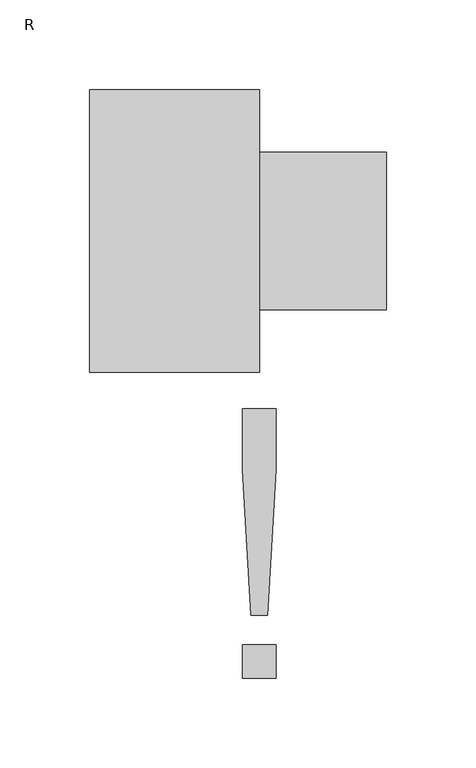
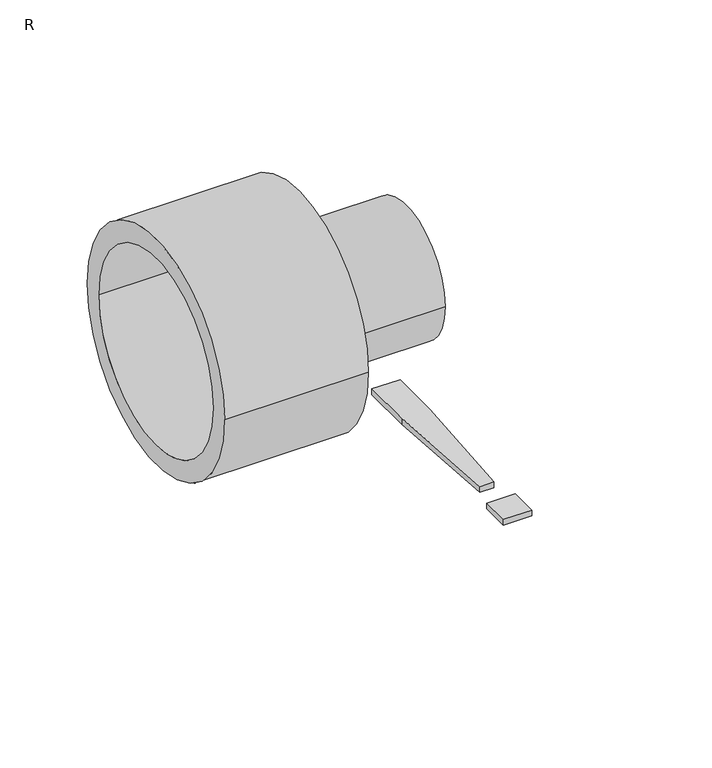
"""IFC4 building model written with IfcOpenShell, lengths in millimetres: pipe fitting geometry, FUSAPEX reducer for T-Piece : R."""

from ifc_helpers import new_model, si_unit, frame, origin, origin_with_axes, place, context, project, spatial, polyline, circle_curve, outline, extrude, source, transform, mapped, element, save
from ifc_brep_helpers import plane_surface, cylinder_surface, revolved_surface, advanced_brep


def r_8749512e(model_context):
    return source(origin(), model_context, "Body", "SolidModel", [
        extrude(outline(polyline([(-4.7088895, -214.6833285), (-9.4177791, -133.3446193), (-9.4177791, -99.3155348), (9.4177791, -99.3155348), (9.4177791, -133.3446193), (4.7088895, -214.6833285), (-4.7088895, -214.6833285)])), origin_with_axes(), (0.0, 0.0, 1.0), 4.0),
        extrude(outline(polyline([(-9.4177791, -250.0), (-9.4177791, -231.1644418), (9.4177791, -231.1644418), (9.4177791, -250.0), (-9.4177791, -250.0)])), origin_with_axes(), (0.0, 0.0, 1.0), 4.0),
        advanced_brep(
        [(-95.0, 65.4, 0.0), (-95.0, -65.4, 0.0), (-14.6, -65.4, 0.0), (-14.6, 65.4, 0.0), (0.0, 79.0, 0.0), (0.0, -79.0, 0.0), (-95.0, -79.0, 0.0), (-95.0, 79.0, 0.0), (71.0, 44.0, 0.0), (71.0, -44.0, 0.0), (0.0, -44.0, 0.0), (0.0, 44.0, 0.0), (-14.6, 36.8, 0.0), (-14.6, -36.8, 0.0), (71.0, -36.8, 0.0), (71.0, 36.8, 0.0)],
        [
            (0, 1, circle_curve(frame((-95.0, 0.0, 0.0), z_axis=(-1.0, 0.0, 0.0), x_axis=(0.0, -1.0, 0.0)), 65.4)),
            (1, 2),
            (2, 3, circle_curve(frame((-14.6, 0.0, 0.0), z_axis=(1.0, 0.0, 0.0), x_axis=(0.0, -1.0, 0.0)), 65.4)),
            (3, 0),
            (4, 5, circle_curve(frame((0.0, 0.0, 0.0), z_axis=(-1.0, 0.0, 0.0), x_axis=(0.0, -1.0, 0.0)), 79.0)),
            (5, 6),
            (6, 7, circle_curve(frame((-95.0, 0.0, 0.0), z_axis=(1.0, 0.0, 0.0), x_axis=(0.0, -1.0, 0.0)), 79.0)),
            (7, 4),
            (8, 9, circle_curve(frame((71.0, 0.0, 0.0), z_axis=(-1.0, 0.0, 0.0), x_axis=(0.0, -1.0, 0.0)), 44.0)),
            (9, 10),
            (10, 11, circle_curve(frame((0.0, 0.0, 0.0), z_axis=(1.0, 0.0, 0.0), x_axis=(0.0, -1.0, 0.0)), 44.0)),
            (11, 8),
            (12, 13, circle_curve(frame((-14.6, 0.0, 0.0), z_axis=(-1.0, 0.0, 0.0), x_axis=(0.0, -1.0, 0.0)), 36.8)),
            (13, 14),
            (14, 15, circle_curve(frame((71.0, 0.0, 0.0), z_axis=(1.0, 0.0, 0.0), x_axis=(0.0, -1.0, 0.0)), 36.8)),
            (15, 12),
            (1, 0, circle_curve(frame((-95.0, 0.0, 0.0), z_axis=(-1.0, 0.0, 0.0), x_axis=(0.0, 1.0, 0.0)), 65.4)),
            (3, 2, circle_curve(frame((-14.6, 0.0, 0.0), z_axis=(1.0, 0.0, 0.0), x_axis=(0.0, 1.0, 0.0)), 65.4)),
            (6, 7, circle_curve(frame((-95.0, 0.0, 0.0), z_axis=(-1.0, 0.0, 0.0), x_axis=(0.0, 1.0, 0.0)), 79.0)),
            (5, 4, circle_curve(frame((0.0, 0.0, 0.0), z_axis=(-1.0, 0.0, 0.0), x_axis=(0.0, 1.0, 0.0)), 79.0)),
            (10, 11, circle_curve(frame((0.0, 0.0, 0.0), z_axis=(-1.0, 0.0, 0.0), x_axis=(0.0, 1.0, 0.0)), 44.0)),
            (9, 8, circle_curve(frame((71.0, 0.0, 0.0), z_axis=(-1.0, 0.0, 0.0), x_axis=(0.0, 1.0, 0.0)), 44.0)),
            (14, 15, circle_curve(frame((71.0, 0.0, 0.0), z_axis=(-1.0, 0.0, 0.0), x_axis=(0.0, 1.0, 0.0)), 36.8)),
            (13, 12, circle_curve(frame((-14.6, 0.0, 0.0), z_axis=(-1.0, 0.0, 0.0), x_axis=(0.0, 1.0, 0.0)), 36.8)),
        ],
        [
            revolved_surface(polyline([(-14.6, -65.4, 0.0), (-95.0, -65.4, 0.0)]), (0.0, 0.0, 0.0), (1.0, 0.0, 0.0)),
            cylinder_surface(frame((0.0, 0.0, 0.0), z_axis=(1.0, 0.0, 0.0), x_axis=(0.0, -1.0, 0.0)), 79.0),
            cylinder_surface(frame((0.0, 0.0, 0.0), z_axis=(1.0, 0.0, 0.0), x_axis=(0.0, -1.0, 0.0)), 44.0),
            revolved_surface(polyline([(71.0, -36.8, 0.0), (-14.6, -36.8, 0.0)]), (0.0, 0.0, 0.0), (1.0, 0.0, 0.0)),
            revolved_surface(polyline([(-14.6, 65.4, 0.0), (-95.0, 65.4, 0.0)]), (0.0, 0.0, 0.0), (1.0, 0.0, 0.0)),
            plane_surface(frame((-95.0, 0.0, 0.0), z_axis=(-1.0, 0.0, 0.0), x_axis=(0.0, 1.0, 0.0))),
            cylinder_surface(frame((0.0, 0.0, 0.0), z_axis=(1.0, 0.0, 0.0), x_axis=(0.0, 1.0, 0.0)), 79.0),
            plane_surface(frame((0.0, 0.0, 0.0), z_axis=(1.0, 0.0, 0.0), x_axis=(0.0, 1.0, 0.0))),
            cylinder_surface(frame((0.0, 0.0, 0.0), z_axis=(1.0, 0.0, 0.0), x_axis=(0.0, 1.0, 0.0)), 44.0),
            plane_surface(frame((71.0, 0.0, 0.0), z_axis=(1.0, 0.0, 0.0), x_axis=(0.0, 1.0, 0.0))),
            revolved_surface(polyline([(71.0, 36.8, 0.0), (-14.6, 36.8, 0.0)]), (0.0, 0.0, 0.0), (1.0, 0.0, 0.0)),
            plane_surface(frame((-14.6, 0.0, 0.0), z_axis=(-1.0, 0.0, 0.0), x_axis=(0.0, 1.0, 0.0))),
        ],
        [
            (0, [[1, 2, 3, 4]]),
            (1, [[5, 6, 7, 8]]),
            (2, [[9, 10, 11, 12]]),
            (3, [[13, 14, 15, 16]]),
            (4, [[17, -4, 18, -2]]),
            (5, [[19, -7], [-17, -1]]),
            (6, [[20, -8, -19, -6]]),
            (7, [[-20, -5], [21, -11]]),
            (8, [[22, -12, -21, -10]]),
            (9, [[-22, -9], [23, -15]]),
            (10, [[24, -16, -23, -14]]),
            (11, [[-18, -3], [-24, -13]]),
        ],
    ),
    ])


if __name__ == "__main__":
    model = new_model("IFC4")
    model_context = context("Model", 3, world=origin())
    ifc_project = project(units=[si_unit("LENGTHUNIT", "METRE", prefix="MILLI")], contexts=[model_context])
    site = spatial("IfcSite", under=ifc_project)
    building = spatial("IfcBuilding", under=site)
    placement = place(None, origin())
    r_shape = r_8749512e(model_context)
    element("IfcPipeFitting", 1, ObjectType="FUSAPEX reducer for T-Piece : R", at=placement, inside=building, context=model_context, shape_type="MappedRepresentation", body=[
        mapped(r_shape, transform((0.0, 0.0, 0.0), x_axis=(1.0, 0.0, 0.0), y_axis=(0.0, 1.0, 0.0), z_axis=(0.0, 0.0, 1.0))),
    ])
    save(model, "model.ifc")
